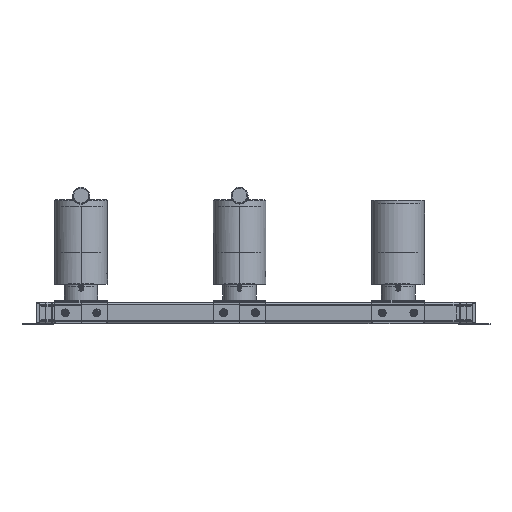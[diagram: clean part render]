
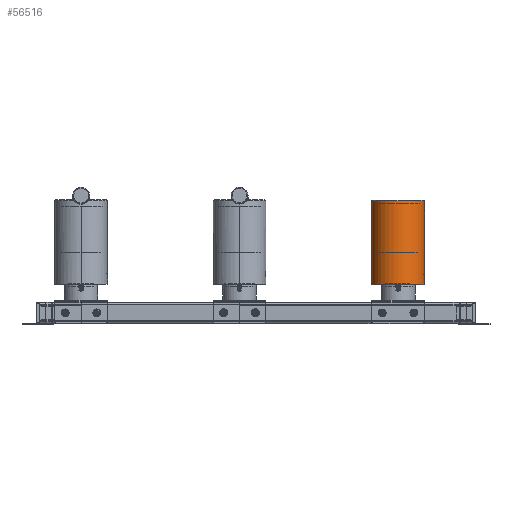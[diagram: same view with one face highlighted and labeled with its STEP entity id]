
A CAD part, top view. The second image highlights one B-rep face of the part: STEP entity #56516.
In plain terms, the highlighted cylindrical face has radius 25 mm (diameter 50 mm), a partial arc.
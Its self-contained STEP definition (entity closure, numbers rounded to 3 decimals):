
#56179=CARTESIAN_POINT('',(0.,0.,0.));
#56180=DIRECTION('',(0.,1.,0.));
#56181=DIRECTION('',(-1.,0.,0.));
#56182=AXIS2_PLACEMENT_3D('',#56179,#56180,#56181);
#56194=CARTESIAN_POINT('',(25.,12.6,0.));
#56219=CARTESIAN_POINT('',(25.,7.4,0.));
#56229=CARTESIAN_POINT('',(24.864,10.,2.6));
#56230=CARTESIAN_POINT('',(24.864,10.192,2.6));
#56231=CARTESIAN_POINT('',(24.869,10.569,2.559));
#56232=CARTESIAN_POINT('',(24.888,11.137,2.363));
#56233=CARTESIAN_POINT('',(24.917,11.633,2.051));
#56234=CARTESIAN_POINT('',(24.948,12.054,1.629));
#56235=CARTESIAN_POINT('',(24.976,12.357,1.146));
#56236=CARTESIAN_POINT('',(24.995,12.554,
0.594));
#56237=CARTESIAN_POINT('',(25.,12.6,0.203));
#56238=CARTESIAN_POINT('',(25.,12.6,0.));
#56240=CARTESIAN_POINT('',(25.,7.4,0.));
#56241=CARTESIAN_POINT('',(25.,7.4,0.201));
#56242=CARTESIAN_POINT('',(24.995,7.445,
0.589));
#56243=CARTESIAN_POINT('',(24.976,7.641,1.142));
#56244=CARTESIAN_POINT('',(24.948,7.945,1.628));
#56245=CARTESIAN_POINT('',(24.917,8.366,2.051));
#56246=CARTESIAN_POINT('',(24.889,8.861,2.362));
#56247=CARTESIAN_POINT('',(24.869,9.43,2.559));
#56248=CARTESIAN_POINT('',(24.864,9.808,2.6));
#56249=CARTESIAN_POINT('',(24.864,10.,2.6));
#56251=DIRECTION('',(0.,-1.,0.));
#56252=VECTOR('',#56251,7.4);
#56253=CARTESIAN_POINT('',(25.,7.4,0.));
#56254=LINE('',#56253,#56252);
#56255=DIRECTION('',(0.,1.,0.));
#56256=VECTOR('',#56255,79.5);
#56257=CARTESIAN_POINT('',(-25.,0.,0.));
#56258=LINE('',#56257,#56256);
#56259=CARTESIAN_POINT('',(0.,79.5,0.));
#56260=DIRECTION('',(0.,1.,0.));
#56261=DIRECTION('',(-1.,0.,0.));
#56262=AXIS2_PLACEMENT_3D('',#56259,#56260,#56261);
#56264=DIRECTION('',(0.,-1.,0.));
#56265=VECTOR('',#56264,66.9);
#56266=CARTESIAN_POINT('',(25.,79.5,0.));
#56267=LINE('',#56266,#56265);
#56390=CARTESIAN_POINT('',(25.,0.,0.));
#56391=CARTESIAN_POINT('',(-25.,0.,0.));
#56392=VERTEX_POINT('',#56390);
#56393=VERTEX_POINT('',#56391);
#56410=CARTESIAN_POINT('',(-25.,79.5,0.));
#56411=VERTEX_POINT('',#56410);
#56416=CARTESIAN_POINT('',(25.,79.5,0.));
#56417=VERTEX_POINT('',#56416);
#56418=VERTEX_POINT('',#56194);
#56420=VERTEX_POINT('',#56219);
#56421=VERTEX_POINT('',#56229);
#56501=CARTESIAN_POINT('',(0.,0.,0.));
#56502=DIRECTION('',(0.,1.,0.));
#56503=DIRECTION('',(1.,0.,0.));
#56504=AXIS2_PLACEMENT_3D('',#56501,#56502,#56503);
#56505=CYLINDRICAL_SURFACE('',#56504,25.);
#56506=ORIENTED_EDGE('',*,*,#56479,.F.);
#56507=ORIENTED_EDGE('',*,*,#56490,.F.);
#56508=ORIENTED_EDGE('',*,*,#56458,.T.);
#56509=ORIENTED_EDGE('',*,*,#56433,.F.);
#56510=ORIENTED_EDGE('',*,*,#56455,.T.);
#56512=ORIENTED_EDGE('',*,*,#56511,.T.);
#56513=ORIENTED_EDGE('',*,*,#56451,.T.);
#56514=EDGE_LOOP('',(#56506,#56507,#56508,#56509,#56510,#56512,#56513));
#56515=FACE_OUTER_BOUND('',#56514,.F.);
#56516=ADVANCED_FACE('',(#56515),#56505,.T.);
#56183=CIRCLE('',#56182,25.);
#56239=B_SPLINE_CURVE_WITH_KNOTS('',3,(#56229,#56230,#56231,#56232,#56233,
#56234,#56235,#56236,#56237,#56238),.UNSPECIFIED.,.F.,.F.,(4,1,1,1,1,1,1,4),(
0.,0.143,0.286,0.429,0.571,
0.714,0.857,1.),.UNSPECIFIED.);
#56250=B_SPLINE_CURVE_WITH_KNOTS('',3,(#56240,#56241,#56242,#56243,#56244,
#56245,#56246,#56247,#56248,#56249),.UNSPECIFIED.,.F.,.F.,(4,1,1,1,1,1,1,4),(
0.,0.143,0.286,0.429,0.571,
0.714,0.857,1.),.UNSPECIFIED.);
#56263=CIRCLE('',#56262,25.);
#56433=EDGE_CURVE('',#56393,#56392,#56183,.T.);
#56451=EDGE_CURVE('',#56417,#56418,#56267,.T.);
#56455=EDGE_CURVE('',#56393,#56411,#56258,.T.);
#56458=EDGE_CURVE('',#56420,#56392,#56254,.T.);
#56479=EDGE_CURVE('',#56421,#56418,#56239,.T.);
#56490=EDGE_CURVE('',#56420,#56421,#56250,.T.);
#56511=EDGE_CURVE('',#56411,#56417,#56263,.T.);
